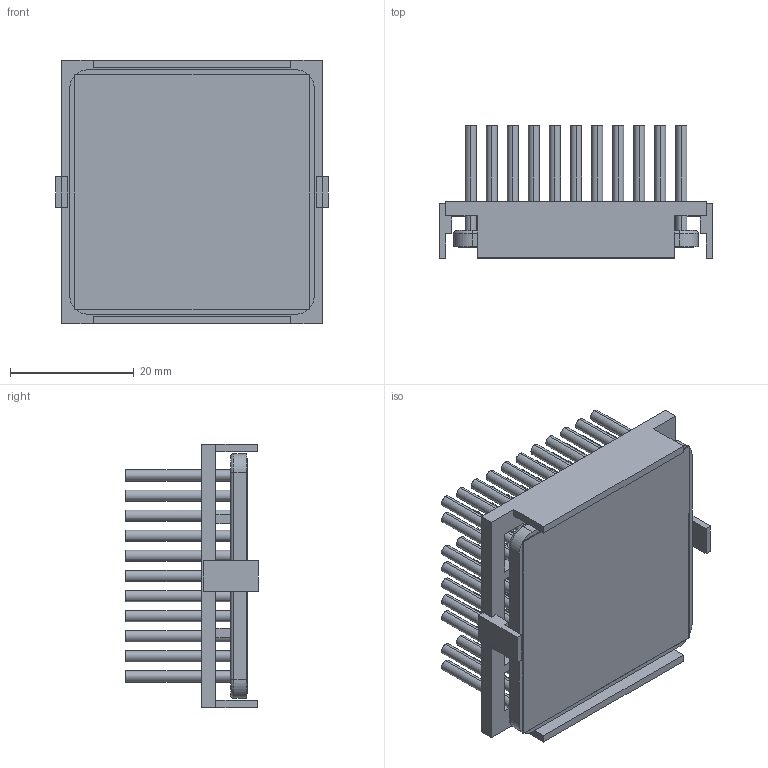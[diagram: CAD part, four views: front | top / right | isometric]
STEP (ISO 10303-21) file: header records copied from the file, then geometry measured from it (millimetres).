
FILE_DESCRIPTION (( 'STEP AP214' ), '1' );
FILE_NAME ('INM40002-20P-2.6BU.STEP', '2023-02-27T17:32:31', ( '' ), ( '' ), 'SwSTEP 2.0', 'SolidWorks 2020', '' );
FILE_SCHEMA (( 'AUTOMOTIVE_DESIGN' ));
Length unit declared in the file: inch
Products named in the file (1): INM40002-20P-2.6BU
Bounding box: 44.2 x 21.5 x 42.7 mm (x, y, z)
Volume: 11120.9 mm3; surface area: 20401.8 mm2
Topology: 3 solids, 3 shells, 421 faces, 898 edges, 596 vertices
Faces by surface type: cylinder 234, plane 183, torus 4
Entity records: 17099 total; most frequent: DIRECTION 2214, CARTESIAN_POINT 1916, ORIENTED_EDGE 1796, EDGE_CURVE 898, AXIS2_PLACEMENT_3D 894, VERTEX_POINT 596, EDGE_LOOP 536, CIRCLE 472
